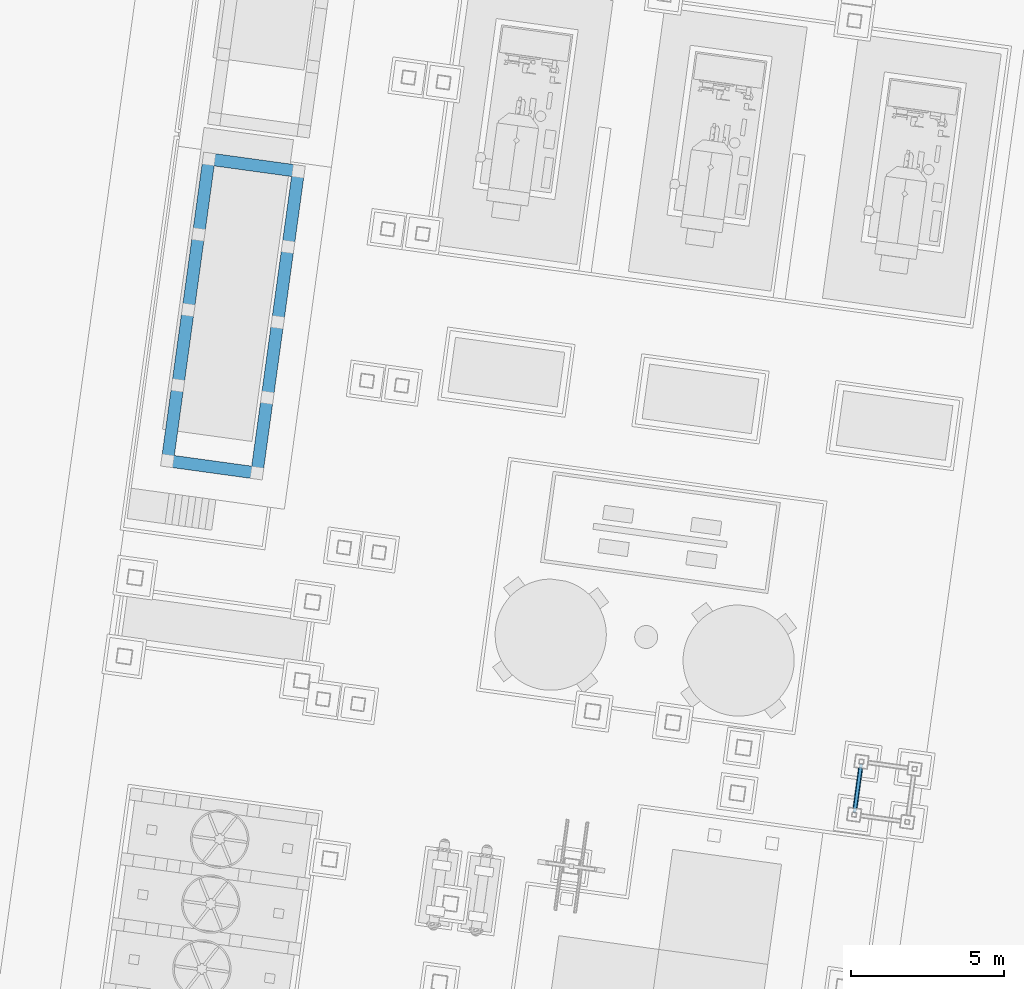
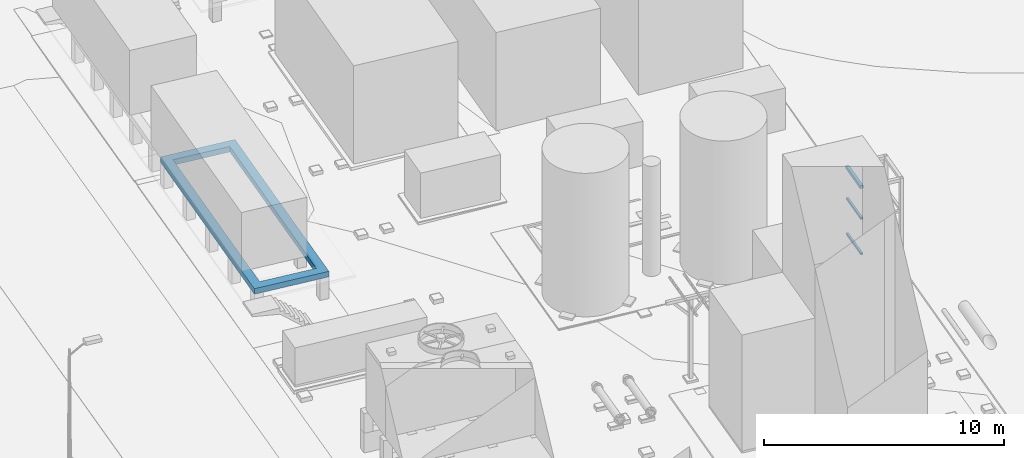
# Not in any storey, part 9 of 75: 3 members, 1 beam.
"""IFC4 model written with IfcOpenShell, lengths in metres."""

from ifc_helpers import new_model, si_unit, direction, origin, origin_with_axes, place, context, subcontext, project, spatial, triangles, element, save


model = new_model("IFC4")

# Units and contexts
model_context = context("Model", 3, precision=1e-05, world=origin_with_axes(), true_north=direction((0.0, 1.0)))
body_context = subcontext(model_context, "Body", "Model", "MODEL_VIEW")
ifc_project = project(units=[si_unit("AREAUNIT", "SQUARE_METRE"), si_unit("VOLUMEUNIT", "CUBIC_METRE"), si_unit("LENGTHUNIT", "METRE")], contexts=[model_context])

# Site
site_placement = place(None, origin_with_axes())
site = spatial("IfcSite", under=ifc_project, at=site_placement, Name="Parcela industrial Jinhong")

# Beam
beam_placement = place(None, origin())
element("IfcBeam", 1, at=beam_placement, inside=site, Name="Cimentación y plataforma del módulo IC-CONTAINER · vigas perimetrales VC1 400 × 400 mm", ObjectType="Cimentación industrial", PredefinedType="USERDEFINED", context=body_context, shape_type="Tessellation", body=[
    triangles([(38.298156, 62.456387, 2.2), (39.257112, 72.368143, 2.2), (39.598903, 71.917389, 2.2), (37.847402, 62.114597, 2.2), (42.125139, 71.570069, 2.2), (41.166183, 61.658313, 2.2), (42.575893, 71.91186, 2.2), (40.824392, 62.109067, 2.2), (38.298156, 62.456387, 2.48), (39.257112, 72.368143, 2.48), (39.598903, 71.917389, 2.48), (37.847402, 62.114597, 2.48), (42.125139, 71.570069, 2.48), (41.166183, 61.658313, 2.48), (42.575893, 71.91186, 2.48), (40.824392, 62.109067, 2.48)], [[1, 2, 3], [2, 1, 4], [2, 5, 3], [1, 6, 4], [5, 2, 7], [6, 1, 8], [7, 8, 5], [8, 7, 6], [11, 10, 9], [12, 9, 10], [11, 13, 10], [12, 14, 9], [15, 10, 13], [16, 9, 14], [13, 16, 15], [14, 15, 16], [11, 9, 3], [3, 9, 1], [12, 10, 4], [4, 10, 2], [13, 11, 5], [5, 11, 3], [14, 12, 6], [6, 12, 4], [10, 15, 2], [2, 15, 7], [15, 14, 7], [7, 14, 6], [9, 16, 1], [1, 16, 8], [16, 13, 8], [8, 13, 5]], closed=True),
])

# Members
member_1_placement = place(None, origin())
element("IfcMember", 2, at=member_1_placement, inside=site, Name="SL1201 · travesaño INF 4", context=body_context, shape_type="Tessellation", body=[
    triangles([(60.779591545, 52.375380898, 3.125), (60.561665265, 50.790291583, 3.125), (60.779591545, 52.375380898, 3.225), (60.561665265, 50.790291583, 3.225), (60.78454495, 52.374699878, 3.125), (60.566618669, 50.789610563, 3.125), (60.78454495, 52.374699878, 3.225), (60.566618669, 50.789610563, 3.225)], [[2, 4, 1], [5, 2, 1], [1, 4, 3], [3, 5, 1], [2, 8, 4], [6, 2, 5], [6, 8, 2], [4, 8, 3], [7, 5, 3], [3, 8, 7], [7, 6, 5], [8, 6, 7]], closed=True),
    triangles([(60.685476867, 52.388320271, 3.125), (60.467550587, 50.803230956, 3.125), (60.685476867, 52.388320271, 3.225), (60.467550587, 50.803230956, 3.225), (60.690430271, 52.387639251, 3.125), (60.472503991, 50.802549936, 3.125), (60.690430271, 52.387639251, 3.225), (60.472503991, 50.802549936, 3.225)], [[2, 4, 1], [5, 2, 1], [1, 4, 3], [3, 5, 1], [2, 8, 4], [6, 2, 5], [6, 8, 2], [4, 8, 3], [7, 5, 3], [3, 8, 7], [7, 6, 5], [8, 6, 7]], closed=True),
    triangles([(60.690430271, 52.387639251, 3.22), (60.472503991, 50.802549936, 3.22), (60.690430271, 52.387639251, 3.225), (60.472503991, 50.802549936, 3.225), (60.779591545, 52.375380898, 3.22), (60.561665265, 50.790291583, 3.22), (60.779591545, 52.375380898, 3.225), (60.561665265, 50.790291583, 3.225)], [[2, 4, 1], [5, 2, 1], [1, 4, 3], [3, 5, 1], [2, 8, 4], [6, 2, 5], [6, 8, 2], [4, 8, 3], [7, 5, 3], [3, 8, 7], [7, 6, 5], [8, 6, 7]], closed=True),
    triangles([(60.690430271, 52.387639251, 3.125), (60.472503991, 50.802549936, 3.125), (60.690430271, 52.387639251, 3.13), (60.472503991, 50.802549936, 3.13), (60.779591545, 52.375380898, 3.125), (60.561665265, 50.790291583, 3.125), (60.779591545, 52.375380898, 3.13), (60.561665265, 50.790291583, 3.13)], [[2, 4, 1], [5, 2, 1], [1, 4, 3], [3, 5, 1], [2, 8, 4], [6, 2, 5], [6, 8, 2], [4, 8, 3], [7, 5, 3], [3, 8, 7], [7, 6, 5], [8, 6, 7]], closed=True),
])
member_2_placement = place(None, origin())
element("IfcMember", 3, at=member_2_placement, inside=site, Name="SL1201 · travesaño MED 4", context=body_context, shape_type="Tessellation", body=[
    triangles([(60.779591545, 52.375380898, 4.925), (60.561665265, 50.790291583, 4.925), (60.779591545, 52.375380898, 5.025), (60.561665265, 50.790291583, 5.025), (60.78454495, 52.374699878, 4.925), (60.566618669, 50.789610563, 4.925), (60.78454495, 52.374699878, 5.025), (60.566618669, 50.789610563, 5.025)], [[2, 4, 1], [5, 2, 1], [1, 4, 3], [3, 5, 1], [2, 8, 4], [6, 2, 5], [6, 8, 2], [4, 8, 3], [7, 5, 3], [3, 8, 7], [7, 6, 5], [8, 6, 7]], closed=True),
    triangles([(60.685476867, 52.388320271, 4.925), (60.467550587, 50.803230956, 4.925), (60.685476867, 52.388320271, 5.025), (60.467550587, 50.803230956, 5.025), (60.690430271, 52.387639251, 4.925), (60.472503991, 50.802549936, 4.925), (60.690430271, 52.387639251, 5.025), (60.472503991, 50.802549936, 5.025)], [[2, 4, 1], [5, 2, 1], [1, 4, 3], [3, 5, 1], [2, 8, 4], [6, 2, 5], [6, 8, 2], [4, 8, 3], [7, 5, 3], [3, 8, 7], [7, 6, 5], [8, 6, 7]], closed=True),
    triangles([(60.690430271, 52.387639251, 5.02), (60.472503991, 50.802549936, 5.02), (60.690430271, 52.387639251, 5.025), (60.472503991, 50.802549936, 5.025), (60.779591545, 52.375380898, 5.02), (60.561665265, 50.790291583, 5.02), (60.779591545, 52.375380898, 5.025), (60.561665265, 50.790291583, 5.025)], [[2, 4, 1], [5, 2, 1], [1, 4, 3], [3, 5, 1], [2, 8, 4], [6, 2, 5], [6, 8, 2], [4, 8, 3], [7, 5, 3], [3, 8, 7], [7, 6, 5], [8, 6, 7]], closed=True),
    triangles([(60.690430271, 52.387639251, 4.925), (60.472503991, 50.802549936, 4.925), (60.690430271, 52.387639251, 4.93), (60.472503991, 50.802549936, 4.93), (60.779591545, 52.375380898, 4.925), (60.561665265, 50.790291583, 4.925), (60.779591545, 52.375380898, 4.93), (60.561665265, 50.790291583, 4.93)], [[2, 4, 1], [5, 2, 1], [1, 4, 3], [3, 5, 1], [2, 8, 4], [6, 2, 5], [6, 8, 2], [4, 8, 3], [7, 5, 3], [3, 8, 7], [7, 6, 5], [8, 6, 7]], closed=True),
])
member_3_placement = place(None, origin())
element("IfcMember", 4, at=member_3_placement, inside=site, Name="SL1201 · travesaño SUP 4", context=body_context, shape_type="Tessellation", body=[
    triangles([(60.803367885, 52.372112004, 6.5), (60.585441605, 50.787022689, 6.5), (60.803367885, 52.372112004, 6.65), (60.585441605, 50.787022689, 6.65), (60.80931197, 52.37129478, 6.5), (60.59138569, 50.786205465, 6.5), (60.80931197, 52.37129478, 6.65), (60.59138569, 50.786205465, 6.65)], [[2, 4, 1], [5, 2, 1], [1, 4, 3], [3, 5, 1], [2, 8, 4], [6, 2, 5], [6, 8, 2], [4, 8, 3], [7, 5, 3], [3, 8, 7], [7, 6, 5], [8, 6, 7]], closed=True),
    triangles([(60.660709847, 52.391725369, 6.5), (60.442783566, 50.806636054, 6.5), (60.660709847, 52.391725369, 6.65), (60.442783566, 50.806636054, 6.65), (60.666653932, 52.390908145, 6.5), (60.448727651, 50.805818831, 6.5), (60.666653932, 52.390908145, 6.65), (60.448727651, 50.805818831, 6.65)], [[2, 4, 1], [5, 2, 1], [1, 4, 3], [3, 5, 1], [2, 8, 4], [6, 2, 5], [6, 8, 2], [4, 8, 3], [7, 5, 3], [3, 8, 7], [7, 6, 5], [8, 6, 7]], closed=True),
    triangles([(60.666653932, 52.390908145, 6.644), (60.448727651, 50.805818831, 6.644), (60.666653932, 52.390908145, 6.65), (60.448727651, 50.805818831, 6.65), (60.803367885, 52.372112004, 6.644), (60.585441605, 50.787022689, 6.644), (60.803367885, 52.372112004, 6.65), (60.585441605, 50.787022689, 6.65)], [[2, 4, 1], [5, 2, 1], [1, 4, 3], [3, 5, 1], [2, 8, 4], [6, 2, 5], [6, 8, 2], [4, 8, 3], [7, 5, 3], [3, 8, 7], [7, 6, 5], [8, 6, 7]], closed=True),
    triangles([(60.666653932, 52.390908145, 6.5), (60.448727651, 50.805818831, 6.5), (60.666653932, 52.390908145, 6.506), (60.448727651, 50.805818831, 6.506), (60.803367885, 52.372112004, 6.5), (60.585441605, 50.787022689, 6.5), (60.803367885, 52.372112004, 6.506), (60.585441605, 50.787022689, 6.506)], [[2, 4, 1], [5, 2, 1], [1, 4, 3], [3, 5, 1], [2, 8, 4], [6, 2, 5], [6, 8, 2], [4, 8, 3], [7, 5, 3], [3, 8, 7], [7, 6, 5], [8, 6, 7]], closed=True),
])

save(model, "model.ifc")
